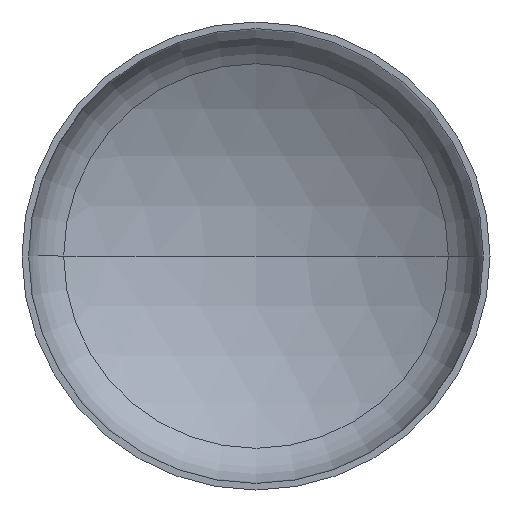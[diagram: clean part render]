
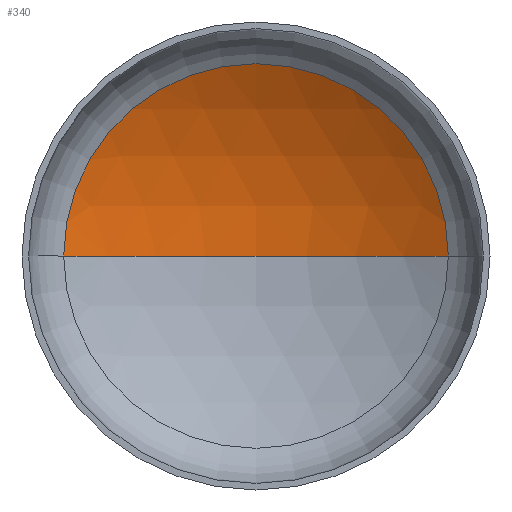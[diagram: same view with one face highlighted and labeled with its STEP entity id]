
A CAD part, front view. The second image highlights one B-rep face of the part: STEP entity #340.
In plain terms, the highlighted spherical face has radius 960 mm.
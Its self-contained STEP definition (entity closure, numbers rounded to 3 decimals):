
#10 = CARTESIAN_POINT ( 'NONE',  ( -493.006, 213.741, 0. ) ) ;
#12 = CARTESIAN_POINT ( 'NONE',  ( 0., 350.003, 0. ) ) ;
#15 = AXIS2_PLACEMENT_3D ( 'NONE', #152, #220, #243 ) ;
#16 = CIRCLE ( 'NONE', #41, 960. ) ;
#17 = ORIENTED_EDGE ( 'NONE', *, *, #172, .T. ) ;
#18 = EDGE_LOOP ( 'NONE', ( #100, #343, #17 ) ) ;
#26 = DIRECTION ( 'NONE',  ( -1., 0., 0. ) ) ;
#41 = AXIS2_PLACEMENT_3D ( 'NONE', #189, #389, #397 ) ;
#44 = CIRCLE ( 'NONE', #49, 493.006 ) ;
#46 = AXIS2_PLACEMENT_3D ( 'NONE', #183, #182, #26 ) ;
#49 = AXIS2_PLACEMENT_3D ( 'NONE', #260, #259, #283 ) ;
#84 = VERTEX_POINT ( 'NONE', #237 ) ;
#100 = ORIENTED_EDGE ( 'NONE', *, *, #214, .F. ) ;
#152 = CARTESIAN_POINT ( 'NONE',  ( 0., -609.997, 0. ) ) ;
#155 = SPHERICAL_SURFACE ( 'NONE', #15, 960. ) ;
#158 = VERTEX_POINT ( 'NONE', #10 ) ;
#159 = VERTEX_POINT ( 'NONE', #12 ) ;
#172 = EDGE_CURVE ( 'NONE', #84, #158, #44, .T. ) ;
#182 = DIRECTION ( 'NONE',  ( 0., 0., -1. ) ) ;
#183 = CARTESIAN_POINT ( 'NONE',  ( 0., -609.997, 0. ) ) ;
#188 = EDGE_CURVE ( 'NONE', #159, #84, #297, .T. ) ;
#189 = CARTESIAN_POINT ( 'NONE',  ( 0., -609.997, 0. ) ) ;
#214 = EDGE_CURVE ( 'NONE', #159, #158, #16, .T. ) ;
#220 = DIRECTION ( 'NONE',  ( 0., 0., -1. ) ) ;
#234 = FACE_OUTER_BOUND ( 'NONE', #18, .T. ) ;
#237 = CARTESIAN_POINT ( 'NONE',  ( 493.006, 213.741, 0. ) ) ;
#243 = DIRECTION ( 'NONE',  ( -1., 0., 0. ) ) ;
#259 = DIRECTION ( 'NONE',  ( 0., -1., 0. ) ) ;
#260 = CARTESIAN_POINT ( 'NONE',  ( 0., 213.741, 0. ) ) ;
#283 = DIRECTION ( 'NONE',  ( 1., 0., 0. ) ) ;
#297 = CIRCLE ( 'NONE', #46, 960. ) ;
#340 = ADVANCED_FACE ( 'NONE', ( #234 ), #155, .F. ) ;
#343 = ORIENTED_EDGE ( 'NONE', *, *, #188, .T. ) ;
#389 = DIRECTION ( 'NONE',  ( 0., 0., 1. ) ) ;
#397 = DIRECTION ( 'NONE',  ( 1., 0., 0. ) ) ;
